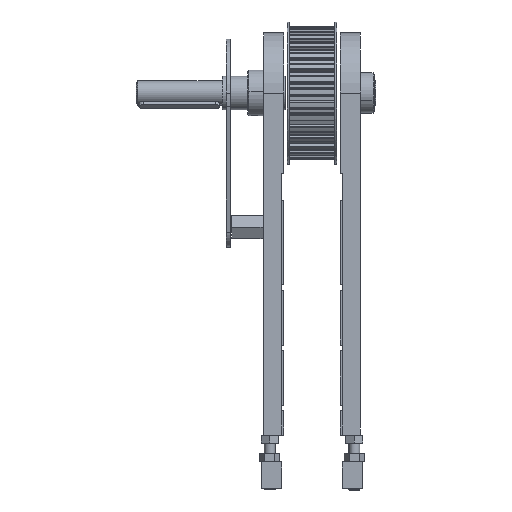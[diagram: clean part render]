
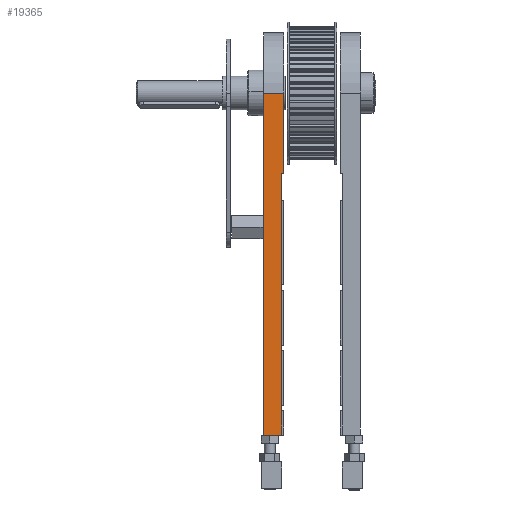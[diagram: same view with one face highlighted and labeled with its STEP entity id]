
A CAD part, front view. The second image highlights one B-rep face of the part: STEP entity #19365.
In plain terms, the highlighted planar face has unit normal (0, -1, 0).
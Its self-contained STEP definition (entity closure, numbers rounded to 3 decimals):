
#345 = DIRECTION ( 'NONE',  ( 0., 0., 1. ) ) ;
#732 = VERTEX_POINT ( 'NONE', #13629 ) ;
#897 = VECTOR ( 'NONE', #10538, 1000. ) ;
#1052 = VECTOR ( 'NONE', #345, 1000. ) ;
#1325 = VECTOR ( 'NONE', #8916, 1000. ) ;
#1884 = ORIENTED_EDGE ( 'NONE', *, *, #12687, .F. ) ;
#1926 = VERTEX_POINT ( 'NONE', #15137 ) ;
#1996 = VECTOR ( 'NONE', #19799, 1000. ) ;
#2419 = ORIENTED_EDGE ( 'NONE', *, *, #9573, .T. ) ;
#2514 = ORIENTED_EDGE ( 'NONE', *, *, #11662, .F. ) ;
#3378 = DIRECTION ( 'NONE',  ( 1., 0., 0. ) ) ;
#5779 = ORIENTED_EDGE ( 'NONE', *, *, #16243, .F. ) ;
#6022 = CARTESIAN_POINT ( 'NONE',  ( -72., -90., 0. ) ) ;
#6530 = DIRECTION ( 'NONE',  ( 1., 0., 0. ) ) ;
#6950 = CARTESIAN_POINT ( 'NONE',  ( -72., -90., 255. ) ) ;
#8166 = EDGE_CURVE ( 'NONE', #18107, #732, #9052, .T. ) ;
#8916 = DIRECTION ( 'NONE',  ( 0., 0., 1. ) ) ;
#8945 = VECTOR ( 'NONE', #6530, 1000. ) ;
#9052 = LINE ( 'NONE', #19083, #1325 ) ;
#9323 = AXIS2_PLACEMENT_3D ( 'NONE', #6950, #15192, #15097 ) ;
#9573 = EDGE_CURVE ( 'NONE', #1926, #18107, #20437, .T. ) ;
#10234 = CARTESIAN_POINT ( 'NONE',  ( -72., -90., 255. ) ) ;
#10314 = VERTEX_POINT ( 'NONE', #6022 ) ;
#10485 = PLANE ( 'NONE',  #9323 ) ;
#10538 = DIRECTION ( 'NONE',  ( 0., 0., -1. ) ) ;
#10863 = ORIENTED_EDGE ( 'NONE', *, *, #14232, .T. ) ;
#11019 = LINE ( 'NONE', #19837, #1996 ) ;
#11149 = CARTESIAN_POINT ( 'NONE',  ( -58.5, -90., 195. ) ) ;
#11662 = EDGE_CURVE ( 'NONE', #1926, #19670, #16854, .T. ) ;
#11926 = CARTESIAN_POINT ( 'NONE',  ( -72., -90., 0. ) ) ;
#12687 = EDGE_CURVE ( 'NONE', #21063, #732, #11019, .T. ) ;
#12808 = CARTESIAN_POINT ( 'NONE',  ( -58.5, -90., 0. ) ) ;
#13345 = FACE_OUTER_BOUND ( 'NONE', #13614, .T. ) ;
#13614 = EDGE_LOOP ( 'NONE', ( #2514, #2419, #17117, #1884, #5779, #10863 ) ) ;
#13629 = CARTESIAN_POINT ( 'NONE',  ( -57., -90., 255. ) ) ;
#14232 = EDGE_CURVE ( 'NONE', #10314, #19670, #19554, .T. ) ;
#15097 = DIRECTION ( 'NONE',  ( 0., 0., -1. ) ) ;
#15137 = CARTESIAN_POINT ( 'NONE',  ( -58.5, -90., 195. ) ) ;
#15192 = DIRECTION ( 'NONE',  ( 0., 1., 0. ) ) ;
#16243 = EDGE_CURVE ( 'NONE', #10314, #21063, #16486, .T. ) ;
#16486 = LINE ( 'NONE', #10234, #1052 ) ;
#16854 = LINE ( 'NONE', #12808, #897 ) ;
#17117 = ORIENTED_EDGE ( 'NONE', *, *, #8166, .T. ) ;
#18107 = VERTEX_POINT ( 'NONE', #18253 ) ;
#18253 = CARTESIAN_POINT ( 'NONE',  ( -57., -90., 195. ) ) ;
#19083 = CARTESIAN_POINT ( 'NONE',  ( -57., -90., 255. ) ) ;
#19365 = ADVANCED_FACE ( 'NONE', ( #13345 ), #10485, .F. ) ;
#19554 = LINE ( 'NONE', #11926, #8945 ) ;
#19670 = VERTEX_POINT ( 'NONE', #20480 ) ;
#19734 = CARTESIAN_POINT ( 'NONE',  ( -72., -90., 255. ) ) ;
#19799 = DIRECTION ( 'NONE',  ( 1., 0., 0. ) ) ;
#19837 = CARTESIAN_POINT ( 'NONE',  ( -72., -90., 255. ) ) ;
#20437 = LINE ( 'NONE', #11149, #21464 ) ;
#20480 = CARTESIAN_POINT ( 'NONE',  ( -58.5, -90., 0. ) ) ;
#21063 = VERTEX_POINT ( 'NONE', #19734 ) ;
#21464 = VECTOR ( 'NONE', #3378, 1000. ) ;
